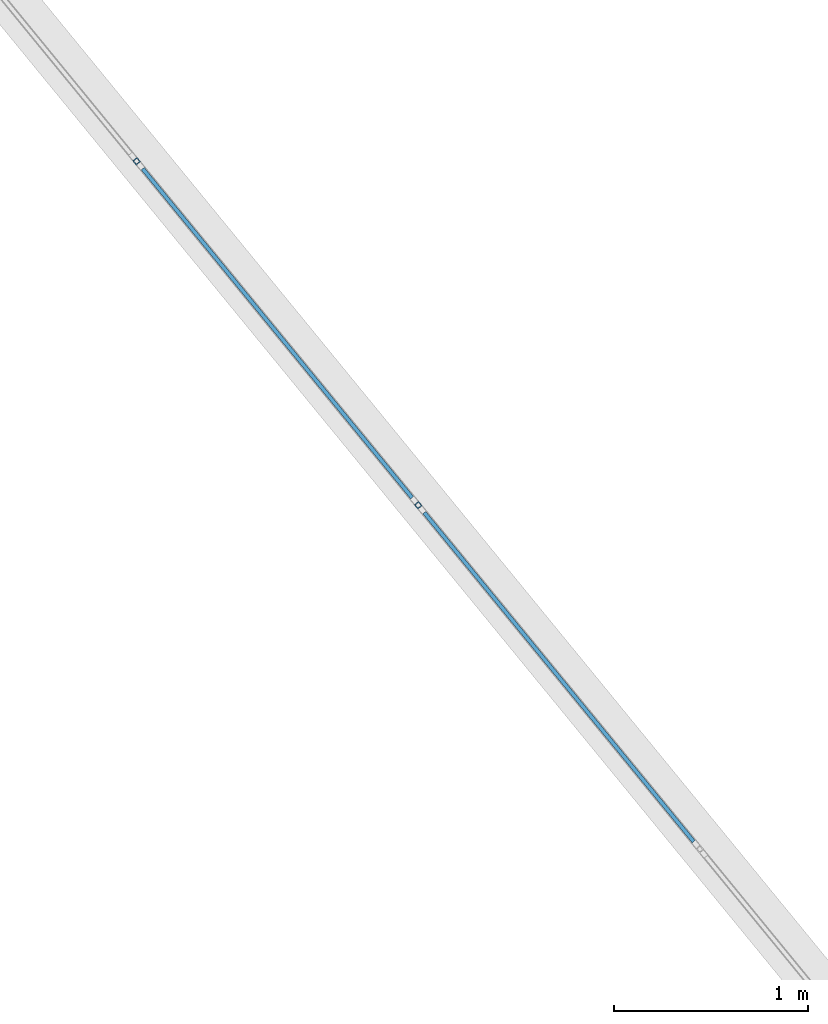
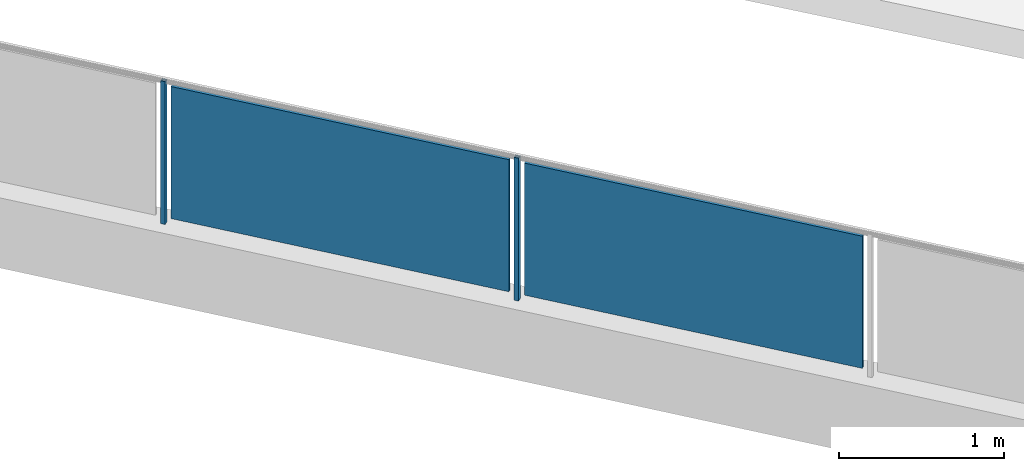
# One storey, part 17 of 67: 4 building element parts, 1 element without a shape of its own.
"""IFC4 building model written with IfcOpenShell, lengths in metres."""

from ifc_helpers import new_model, entity, si_unit, converted_unit, derived_unit, direction, frame, origin_with_axes, place, context, subcontext, project, spatial, polygons, material, type_object, element, aggregate, save


model = new_model("IFC4")

# Units and contexts
model_context = context("Model", 3, precision=1e-05, world=origin_with_axes(), true_north=direction((0.0, 1.0)))
body_context = subcontext(model_context, "Body", "Model", "MODEL_VIEW")
ifc_project = project(units=[si_unit("LENGTHUNIT", "METRE"), si_unit("AREAUNIT", "SQUARE_METRE"), si_unit("VOLUMEUNIT", "CUBIC_METRE"), converted_unit("PLANEANGLEUNIT", "DEGREE", entity("IfcPlaneAngleMeasure", 0.0174532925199), si_unit("PLANEANGLEUNIT", "RADIAN"), dimensions=[0, 0, 0, 0, 0, 0, 0]), converted_unit("TIMEUNIT", "Year", entity("IfcTimeMeasure", 31556926.0), si_unit("TIMEUNIT", "SECOND"), dimensions=[0, 0, 1, 0, 0, 0, 0]), si_unit("MASSUNIT", "GRAM", prefix="KILO"), si_unit("THERMODYNAMICTEMPERATUREUNIT", "DEGREE_CELSIUS"), si_unit("LUMINOUSINTENSITYUNIT", "LUMEN"), si_unit("ENERGYUNIT", "JOULE", prefix="MEGA"), derived_unit("THERMALCONDUCTANCEUNIT", [(si_unit("POWERUNIT", "WATT"), 1), (si_unit("LENGTHUNIT", "METRE"), -1), (si_unit("THERMODYNAMICTEMPERATUREUNIT", "KELVIN"), -1)]), derived_unit("SPECIFICHEATCAPACITYUNIT", [(si_unit("ENERGYUNIT", "JOULE"), 1), (si_unit("MASSUNIT", "GRAM", prefix="KILO"), -1), (si_unit("THERMODYNAMICTEMPERATUREUNIT", "KELVIN"), -1)]), derived_unit("MASSDENSITYUNIT", [(si_unit("MASSUNIT", "GRAM", prefix="KILO"), 1), (si_unit("VOLUMEUNIT", "CUBIC_METRE"), -1)])], contexts=[model_context])

# Site, building, storey
site_placement = place(None, frame((-0.00153261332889, -0.00661245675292, 0.0), z_axis=(0.0, 0.0, 1.0), x_axis=(1.0, 0.0, 0.0)))
site = spatial("IfcSite", under=ifc_project, at=site_placement, Name="Site", CompositionType="ELEMENT")
building_placement = place(site_placement, origin_with_axes())
building = spatial("IfcBuilding", under=site, at=building_placement, Name="Building", CompositionType="ELEMENT")
storey_placement = place(building_placement, frame((0.0, 0.0, -0.22), z_axis=(0.0, 0.0, 1.0), x_axis=(1.0, 0.0, 0.0)))
storey = spatial("IfcBuildingStorey", under=building, at=storey_placement, Name="EG", CompositionType="ELEMENT", Elevation=-0.22)

# Railing, building element parts
railing_type = type_object("IfcRailingType", Name="Geländerart", PredefinedType="NOTDEFINED")
railing_placement = place(storey_placement, frame((-12.1608341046, 23.557810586, 0.523948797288), z_axis=(0.0, 0.0, 1.0), x_axis=(1.0, 0.0, 0.0)))
railing = element("IfcRailing", 1, at=railing_placement, inside=storey, type_object=railing_type, Name="Geländer - 001", PredefinedType="NOTDEFINED")
ifc_material_1 = material(Name="Aluminium")
building_element_part_1_placement = place(railing_placement, origin_with_axes())
building_element_part_1 = element("IfcBuildingElementPart", 2, at=building_element_part_1_placement, material=ifc_material_1, Name="Aluminium", PredefinedType="NOTDEFINED", context=body_context, shape_type="Tessellation", body=[
    polygons([(6.35658844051, -16.3257076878, 0.0), (6.37980106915, -16.3067031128, 0.0), (6.37980106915, -16.3067031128, 1.06), (6.35658844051, -16.3257076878, 1.06), (6.3375838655, -16.3024950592, 0.0), (6.36079649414, -16.2834904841, 0.0), (6.35728978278, -16.3186714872, 0.0), (6.37276486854, -16.3060017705, 0.0), (6.36009515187, -16.2905266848, 0.0), (6.3446200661, -16.3031964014, 0.0), (6.36079649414, -16.2834904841, 1.06), (6.3375838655, -16.3024950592, 1.06), (6.35728978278, -16.3186714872, 1.06), (6.3446200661, -16.3031964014, 1.06), (6.36009515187, -16.2905266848, 1.06), (6.37276486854, -16.3060017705, 1.06)], [[[1, 2, 3, 4]], [[1, 5, 6, 2], [7, 8, 9, 10]], [[2, 6, 11, 3]], [[4, 3, 11, 12], [13, 14, 15, 16]], [[5, 1, 4, 12]], [[6, 5, 12, 11]], [[8, 7, 13, 16]], [[9, 8, 16, 15]], [[10, 9, 15, 14]], [[7, 10, 14, 13]]], closed=True),
])
ifc_material_2 = material(Name="Zaun")
building_element_part_2_placement = place(railing_placement, origin_with_axes())
building_element_part_2 = element("IfcBuildingElementPart", 3, at=building_element_part_2_placement, material=ifc_material_2, Name="Zaun", PredefinedType="NOTDEFINED", context=body_context, shape_type="Tessellation", body=[
    polygons([(7.7890201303, -18.0358487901, 0.05), (6.3981043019, -16.336951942, 0.05), (6.3981043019, -16.336951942, 1.03), (7.7890201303, -18.0358487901, 1.03), (6.38262921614, -16.3496216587, 0.05), (7.77354504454, -18.0485185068, 0.05), (6.38262921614, -16.3496216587, 1.03), (7.77354504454, -18.0485185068, 1.03)], [[[1, 2, 3, 4]], [[5, 2, 1, 6]], [[7, 3, 2, 5]], [[4, 3, 7, 8]], [[1, 4, 8, 6]], [[7, 5, 6, 8]]], closed=True),
])
building_element_part_3_placement = place(railing_placement, origin_with_axes())
building_element_part_3 = element("IfcBuildingElementPart", 4, at=building_element_part_3_placement, material=ifc_material_1, Name="Aluminium", PredefinedType="NOTDEFINED", context=body_context, shape_type="Tessellation", body=[
    polygons([(7.8108528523, -18.1019799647, 0.0), (7.83406548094, -18.0829753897, 0.0), (7.83406548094, -18.0829753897, 1.06), (7.8108528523, -18.1019799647, 1.06), (7.79184827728, -18.0787673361, 0.0), (7.81506090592, -18.0597627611, 0.0), (7.81155419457, -18.0949437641, 0.0), (7.82702928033, -18.0822740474, 0.0), (7.81435956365, -18.0667989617, 0.0), (7.79888447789, -18.0794686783, 0.0), (7.81506090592, -18.0597627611, 1.06), (7.79184827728, -18.0787673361, 1.06), (7.81155419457, -18.0949437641, 1.06), (7.79888447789, -18.0794686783, 1.06), (7.81435956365, -18.0667989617, 1.06), (7.82702928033, -18.0822740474, 1.06)], [[[1, 2, 3, 4]], [[1, 5, 6, 2], [7, 8, 9, 10]], [[2, 6, 11, 3]], [[4, 3, 11, 12], [13, 14, 15, 16]], [[5, 1, 4, 12]], [[6, 5, 12, 11]], [[8, 7, 13, 16]], [[9, 8, 16, 15]], [[10, 9, 15, 14]], [[7, 10, 14, 13]]], closed=True),
])
building_element_part_4_placement = place(railing_placement, origin_with_axes())
building_element_part_4 = element("IfcBuildingElementPart", 5, at=building_element_part_4_placement, material=ifc_material_2, Name="Zaun", PredefinedType="NOTDEFINED", context=body_context, shape_type="Tessellation", body=[
    polygons([(9.24328454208, -19.8121210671, 0.05), (7.85236871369, -18.113224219, 0.05), (7.85236871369, -18.113224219, 1.03), (9.24328454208, -19.8121210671, 1.03), (7.83689362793, -18.1258939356, 0.05), (9.22780945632, -19.8247907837, 0.05), (7.83689362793, -18.1258939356, 1.03), (9.22780945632, -19.8247907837, 1.03)], [[[1, 2, 3, 4]], [[5, 2, 1, 6]], [[7, 3, 2, 5]], [[4, 3, 7, 8]], [[1, 4, 8, 6]], [[7, 5, 6, 8]]], closed=True),
])
aggregate(railing, [building_element_part_1, building_element_part_2, building_element_part_3, building_element_part_4])

save(model, "model.ifc")
